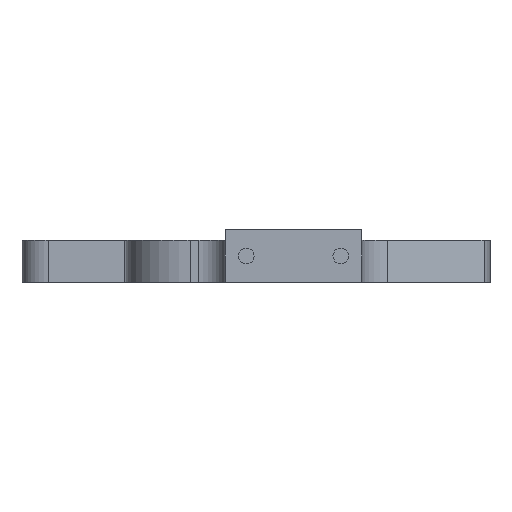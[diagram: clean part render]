
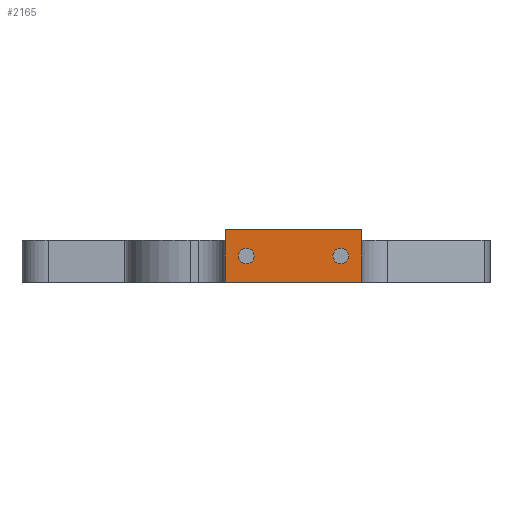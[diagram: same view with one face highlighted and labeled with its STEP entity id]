
A CAD part, front view. The second image highlights one B-rep face of the part: STEP entity #2165.
In plain terms, the highlighted planar face has unit normal (0, -1, 0).
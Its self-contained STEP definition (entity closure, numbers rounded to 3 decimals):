
#8 = DIRECTION ( 'NONE',  ( 0., -1., 0. ) ) ;
#16 = CARTESIAN_POINT ( 'NONE',  ( -5.858, -60.75, 0. ) ) ;
#99 = DIRECTION ( 'NONE',  ( 0., -1., 0. ) ) ;
#107 = DIRECTION ( 'NONE',  ( 0., 0., -1. ) ) ;
#138 = EDGE_CURVE ( 'NONE', #167, #301, #1826, .T. ) ;
#167 = VERTEX_POINT ( 'NONE', #1312 ) ;
#237 = DIRECTION ( 'NONE',  ( 1., 0., 0. ) ) ;
#294 = EDGE_CURVE ( 'NONE', #2189, #657, #2827, .T. ) ;
#301 = VERTEX_POINT ( 'NONE', #1855 ) ;
#304 = EDGE_CURVE ( 'NONE', #993, #949, #772, .T. ) ;
#325 = DIRECTION ( 'NONE',  ( 1., 0., 0. ) ) ;
#372 = LINE ( 'NONE', #559, #1711 ) ;
#461 = CARTESIAN_POINT ( 'NONE',  ( -1.858, -60.75, 6.5 ) ) ;
#482 = ORIENTED_EDGE ( 'NONE', *, *, #1735, .F. ) ;
#557 = DIRECTION ( 'NONE',  ( 0., 0., -1. ) ) ;
#559 = CARTESIAN_POINT ( 'NONE',  ( -5.858, -60.75, 8. ) ) ;
#570 = CARTESIAN_POINT ( 'NONE',  ( 16.142, -60.75, 5. ) ) ;
#657 = VERTEX_POINT ( 'NONE', #461 ) ;
#728 = CARTESIAN_POINT ( 'NONE',  ( -1.858, -60.75, 5. ) ) ;
#734 = CARTESIAN_POINT ( 'NONE',  ( 0., -60.75, 10. ) ) ;
#761 = DIRECTION ( 'NONE',  ( 0., -1., 0. ) ) ;
#772 = LINE ( 'NONE', #2543, #2505 ) ;
#795 = DIRECTION ( 'NONE',  ( 0., 0., -1. ) ) ;
#818 = CARTESIAN_POINT ( 'NONE',  ( 20.142, -60.75, 8. ) ) ;
#915 = CARTESIAN_POINT ( 'NONE',  ( -1.858, -60.75, 3.5 ) ) ;
#921 = EDGE_CURVE ( 'NONE', #1887, #993, #372, .T. ) ;
#930 = PLANE ( 'NONE',  #1972 ) ;
#944 = ORIENTED_EDGE ( 'NONE', *, *, #1940, .F. ) ;
#949 = VERTEX_POINT ( 'NONE', #2568 ) ;
#993 = VERTEX_POINT ( 'NONE', #16 ) ;
#1001 = ORIENTED_EDGE ( 'NONE', *, *, #294, .F. ) ;
#1005 = CIRCLE ( 'NONE', #1236, 1.5 ) ;
#1030 = LINE ( 'NONE', #818, #2437 ) ;
#1137 = CIRCLE ( 'NONE', #1877, 1.5 ) ;
#1139 = DIRECTION ( 'NONE',  ( 0., 1., 0. ) ) ;
#1147 = EDGE_LOOP ( 'NONE', ( #1267, #1640 ) ) ;
#1201 = ORIENTED_EDGE ( 'NONE', *, *, #921, .T. ) ;
#1236 = AXIS2_PLACEMENT_3D ( 'NONE', #570, #99, #557 ) ;
#1267 = ORIENTED_EDGE ( 'NONE', *, *, #138, .F. ) ;
#1283 = VECTOR ( 'NONE', #237, 1000. ) ;
#1312 = CARTESIAN_POINT ( 'NONE',  ( 16.142, -60.75, 3.5 ) ) ;
#1331 = CARTESIAN_POINT ( 'NONE',  ( 0., -60.75, 8. ) ) ;
#1344 = VERTEX_POINT ( 'NONE', #2236 ) ;
#1441 = ORIENTED_EDGE ( 'NONE', *, *, #1686, .F. ) ;
#1567 = AXIS2_PLACEMENT_3D ( 'NONE', #728, #761, #107 ) ;
#1640 = ORIENTED_EDGE ( 'NONE', *, *, #2468, .F. ) ;
#1674 = EDGE_LOOP ( 'NONE', ( #1001, #482 ) ) ;
#1686 = EDGE_CURVE ( 'NONE', #1887, #1344, #2242, .T. ) ;
#1691 = AXIS2_PLACEMENT_3D ( 'NONE', #1994, #8, #2699 ) ;
#1711 = VECTOR ( 'NONE', #795, 1000. ) ;
#1735 = EDGE_CURVE ( 'NONE', #657, #2189, #1137, .T. ) ;
#1742 = ORIENTED_EDGE ( 'NONE', *, *, #304, .T. ) ;
#1785 = DIRECTION ( 'NONE',  ( -1., 0., 0. ) ) ;
#1801 = EDGE_LOOP ( 'NONE', ( #1742, #944, #1441, #1201 ) ) ;
#1826 = CIRCLE ( 'NONE', #1691, 1.5 ) ;
#1855 = CARTESIAN_POINT ( 'NONE',  ( 16.142, -60.75, 6.5 ) ) ;
#1877 = AXIS2_PLACEMENT_3D ( 'NONE', #2037, #2022, #2692 ) ;
#1887 = VERTEX_POINT ( 'NONE', #1921 ) ;
#1921 = CARTESIAN_POINT ( 'NONE',  ( -5.858, -60.75, 10. ) ) ;
#1940 = EDGE_CURVE ( 'NONE', #1344, #949, #1030, .T. ) ;
#1972 = AXIS2_PLACEMENT_3D ( 'NONE', #1331, #1139, #1785 ) ;
#1994 = CARTESIAN_POINT ( 'NONE',  ( 16.142, -60.75, 5. ) ) ;
#2022 = DIRECTION ( 'NONE',  ( 0., -1., 0. ) ) ;
#2037 = CARTESIAN_POINT ( 'NONE',  ( -1.858, -60.75, 5. ) ) ;
#2061 = FACE_OUTER_BOUND ( 'NONE', #1801, .T. ) ;
#2115 = DIRECTION ( 'NONE',  ( 0., 0., -1. ) ) ;
#2165 = ADVANCED_FACE ( 'NONE', ( #2714, #2455, #2061 ), #930, .F. ) ;
#2189 = VERTEX_POINT ( 'NONE', #915 ) ;
#2236 = CARTESIAN_POINT ( 'NONE',  ( 20.142, -60.75, 10. ) ) ;
#2242 = LINE ( 'NONE', #734, #1283 ) ;
#2437 = VECTOR ( 'NONE', #2115, 1000. ) ;
#2455 = FACE_BOUND ( 'NONE', #1147, .T. ) ;
#2468 = EDGE_CURVE ( 'NONE', #301, #167, #1005, .T. ) ;
#2505 = VECTOR ( 'NONE', #325, 1000. ) ;
#2543 = CARTESIAN_POINT ( 'NONE',  ( 0., -60.75, 0. ) ) ;
#2568 = CARTESIAN_POINT ( 'NONE',  ( 20.142, -60.75, 0. ) ) ;
#2692 = DIRECTION ( 'NONE',  ( 0., 0., -1. ) ) ;
#2699 = DIRECTION ( 'NONE',  ( 0., 0., -1. ) ) ;
#2714 = FACE_BOUND ( 'NONE', #1674, .T. ) ;
#2827 = CIRCLE ( 'NONE', #1567, 1.5 ) ;
